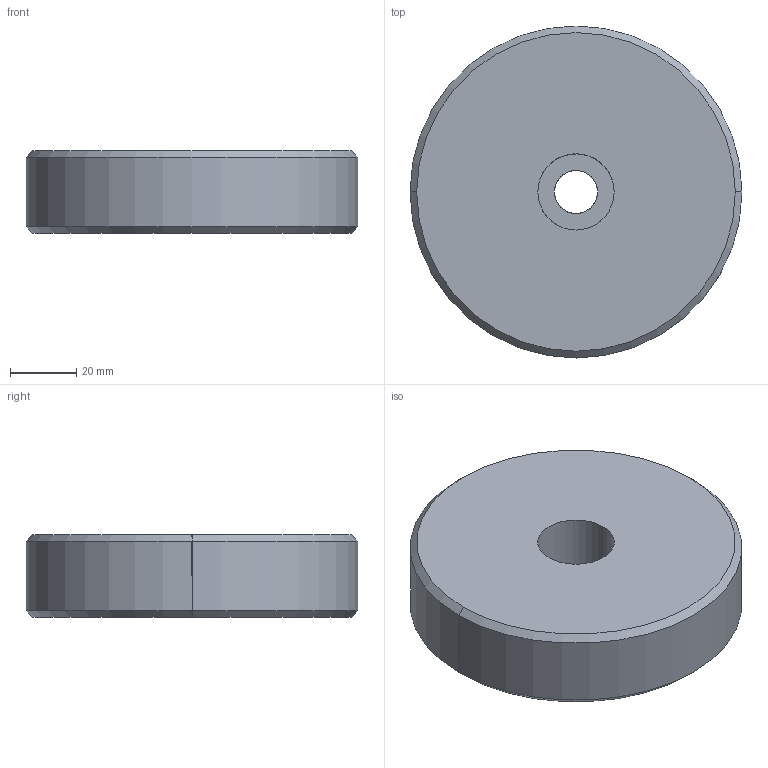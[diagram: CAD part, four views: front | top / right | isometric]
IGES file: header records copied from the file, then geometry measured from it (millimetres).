
Start section: START RECORD GO HERE.
Global section: file name: 703.1.igs; native system: DASSAULT SYSTEMES CATIA V5 R20 - www.3ds.com; preprocessor: CATIA Version 5 Release 20 ; author: Utente; organization: NB04-ASUS; date: 20201025.133327; units: millimetre
Bounding box: 100 x 100 x 25 mm (x, y, z)
Surface area: 24136.5 mm2 (no closed solid volume)
Topology: 0 solids, 0 shells, 13 faces, 52 edges, 52 vertices
Faces by surface type: revolution 10, plane 3
